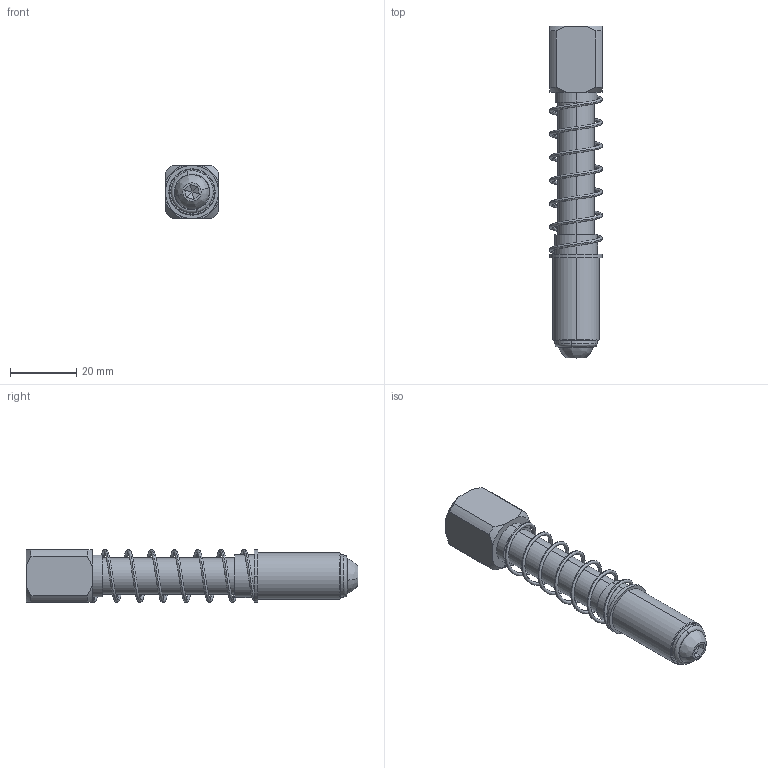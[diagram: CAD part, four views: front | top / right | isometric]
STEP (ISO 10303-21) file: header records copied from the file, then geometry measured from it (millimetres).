
FILE_DESCRIPTION (( 'STEP AP214' ), '1' );
FILE_NAME ('VFM-4014-G18.STEP', '2019-11-15T09:06:19', ( '微软用户' ), ( '微软中国' ), 'SwSTEP 2.0', 'SolidWorks 2016', '' );
FILE_SCHEMA (( 'AUTOMOTIVE_DESIGN' ));
Length unit declared in the file: millimetre
Products named in the file (1): VFM-4014-G18
Bounding box: 16 x 100.3 x 16 mm (x, y, z)
Volume: 15927.5 mm3; surface area: 11084.4 mm2
Topology: 6 solids, 6 shells, 98 faces, 210 edges, 126 vertices
Faces by surface type: cylinder 34, plane 33, cone 25, bspline 6
Entity records: 5944 total; most frequent: CARTESIAN_POINT 2726, DIRECTION 436, ORIENTED_EDGE 408, EDGE_CURVE 204, AXIS2_PLACEMENT_3D 176, VERTEX_POINT 126, EDGE_LOOP 112, UNCERTAINTY_MEASURE_WITH_UNIT 106
